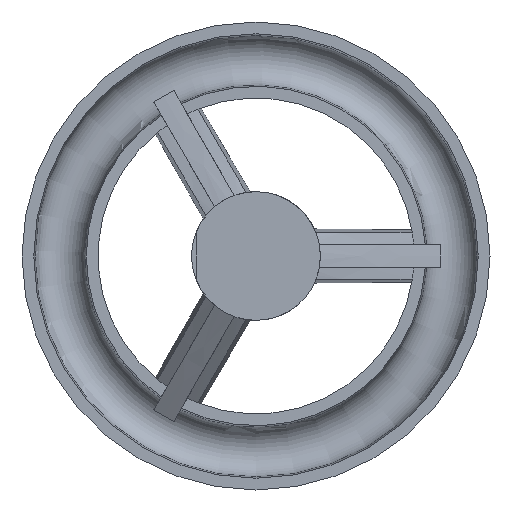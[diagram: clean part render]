
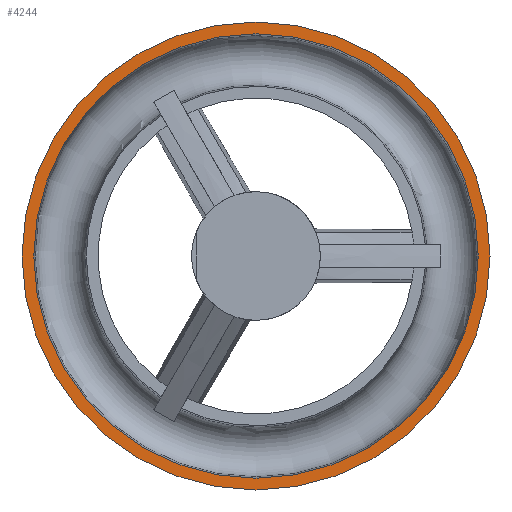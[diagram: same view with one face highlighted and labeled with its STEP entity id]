
A CAD part, front view. The second image highlights one B-rep face of the part: STEP entity #4244.
In plain terms, the highlighted planar face has unit normal (0, -1, 0).
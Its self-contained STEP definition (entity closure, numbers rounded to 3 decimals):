
#1163 = EDGE_LOOP ( 'NONE', ( #4582 ) ) ;
#1496 = DIRECTION ( 'NONE',  ( 0.866, 0., -0.5 ) ) ;
#1541 = CARTESIAN_POINT ( 'NONE',  ( -42.688, 22.622, -22.036 ) ) ;
#1659 = PLANE ( 'NONE',  #7437 ) ;
#1740 = DIRECTION ( 'NONE',  ( 0., 1., 0. ) ) ;
#1869 = CIRCLE ( 'NONE', #5707, 75.985 ) ;
#1929 = VERTEX_POINT ( 'NONE', #3881 ) ;
#1943 = VERTEX_POINT ( 'NONE', #3896 ) ;
#2974 = DIRECTION ( 'NONE',  ( 0.866, 0., -0.5 ) ) ;
#2975 = DIRECTION ( 'NONE',  ( 0., 1., 0. ) ) ;
#2976 = CARTESIAN_POINT ( 'NONE',  ( -69.688, 22.622, 24.73 ) ) ;
#3290 = CARTESIAN_POINT ( 'NONE',  ( -69.688, 22.622, 24.73 ) ) ;
#3291 = DIRECTION ( 'NONE',  ( 0., 1., 0. ) ) ;
#3292 = DIRECTION ( 'NONE',  ( 0.866, 0., -0.5 ) ) ;
#3881 = CARTESIAN_POINT ( 'NONE',  ( -0.406, 22.622, -15.27 ) ) ;
#3896 = CARTESIAN_POINT ( 'NONE',  ( -3.883, 22.622, -13.263 ) ) ;
#4244 = ADVANCED_FACE ( 'NONE', ( #6505, #6498 ), #1659, .F. ) ;
#4369 = EDGE_CURVE ( 'NONE', #1929, #1929, #5143, .T. ) ;
#4582 = ORIENTED_EDGE ( 'NONE', *, *, #4941, .T. ) ;
#4941 = EDGE_CURVE ( 'NONE', #1943, #1943, #1869, .T. ) ;
#5143 = CIRCLE ( 'NONE', #5726, 80. ) ;
#5707 = AXIS2_PLACEMENT_3D ( 'NONE', #3290, #3291, #3292 ) ;
#5726 = AXIS2_PLACEMENT_3D ( 'NONE', #2976, #2975, #2974 ) ;
#5865 = EDGE_LOOP ( 'NONE', ( #6424 ) ) ;
#6424 = ORIENTED_EDGE ( 'NONE', *, *, #4369, .F. ) ;
#6498 = FACE_BOUND ( 'NONE', #1163, .T. ) ;
#6505 = FACE_OUTER_BOUND ( 'NONE', #5865, .T. ) ;
#7437 = AXIS2_PLACEMENT_3D ( 'NONE', #1541, #1740, #1496 ) ;
